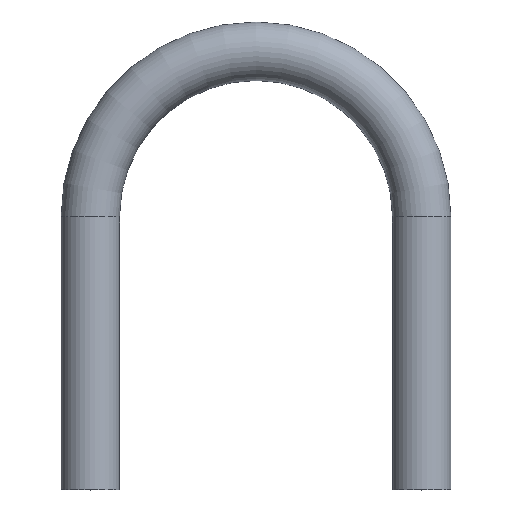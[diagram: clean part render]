
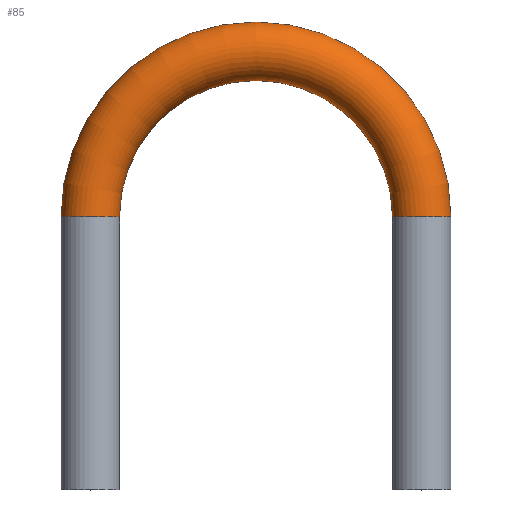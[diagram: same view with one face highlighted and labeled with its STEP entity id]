
A CAD part, top view. The second image highlights one B-rep face of the part: STEP entity #85.
In plain terms, the highlighted toroidal (fillet/blend) face has major radius 17 mm and minor radius 3 mm.
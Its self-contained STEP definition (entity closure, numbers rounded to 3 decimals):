
#17=TOROIDAL_SURFACE('',#114,17.,3.);
#19=FACE_OUTER_BOUND('',#24,.T.);
#24=EDGE_LOOP('',(#66,#67,#68,#69,#70,#71));
#34=CIRCLE('',#112,3.);
#35=CIRCLE('',#113,3.);
#36=CIRCLE('',#115,14.);
#37=CIRCLE('',#116,3.);
#38=CIRCLE('',#117,3.);
#43=VERTEX_POINT('',#161);
#44=VERTEX_POINT('',#163);
#45=VERTEX_POINT('',#167);
#46=VERTEX_POINT('',#169);
#52=EDGE_CURVE('',#43,#44,#34,.T.);
#53=EDGE_CURVE('',#44,#43,#35,.T.);
#54=EDGE_CURVE('',#43,#45,#36,.T.);
#55=EDGE_CURVE('',#45,#46,#37,.T.);
#56=EDGE_CURVE('',#46,#45,#38,.T.);
#66=ORIENTED_EDGE('',*,*,#53,.F.);
#67=ORIENTED_EDGE('',*,*,#52,.F.);
#68=ORIENTED_EDGE('',*,*,#54,.T.);
#69=ORIENTED_EDGE('',*,*,#55,.T.);
#70=ORIENTED_EDGE('',*,*,#56,.T.);
#71=ORIENTED_EDGE('',*,*,#54,.F.);
#85=ADVANCED_FACE('',(#19),#17,.T.);
#112=AXIS2_PLACEMENT_3D('',#164,#132,#133);
#113=AXIS2_PLACEMENT_3D('',#165,#134,#135);
#114=AXIS2_PLACEMENT_3D('',#166,#136,#137);
#115=AXIS2_PLACEMENT_3D('',#168,#138,#139);
#116=AXIS2_PLACEMENT_3D('',#170,#140,#141);
#117=AXIS2_PLACEMENT_3D('',#171,#142,#143);
#132=DIRECTION('center_axis',(0.,-1.,0.));
#133=DIRECTION('ref_axis',(-1.,0.,0.));
#134=DIRECTION('center_axis',(0.,-1.,0.));
#135=DIRECTION('ref_axis',(-1.,0.,0.));
#136=DIRECTION('center_axis',(0.,0.,1.));
#137=DIRECTION('ref_axis',(1.,0.,0.));
#138=DIRECTION('center_axis',(0.,0.,-1.));
#139=DIRECTION('ref_axis',(1.,0.,0.));
#140=DIRECTION('center_axis',(0.,1.,0.));
#141=DIRECTION('ref_axis',(1.,0.,0.));
#142=DIRECTION('center_axis',(0.,1.,0.));
#143=DIRECTION('ref_axis',(1.,0.,0.));
#161=CARTESIAN_POINT('',(-14.,0.,0.));
#163=CARTESIAN_POINT('',(-20.,0.,0.));
#164=CARTESIAN_POINT('Origin',(-17.,0.,0.));
#165=CARTESIAN_POINT('Origin',(-17.,0.,0.));
#166=CARTESIAN_POINT('Origin',(0.,0.,0.));
#167=CARTESIAN_POINT('',(14.,0.,0.));
#168=CARTESIAN_POINT('Origin',(0.,0.,0.));
#169=CARTESIAN_POINT('',(20.,0.,0.));
#170=CARTESIAN_POINT('Origin',(17.,0.,0.));
#171=CARTESIAN_POINT('Origin',(17.,0.,0.));
